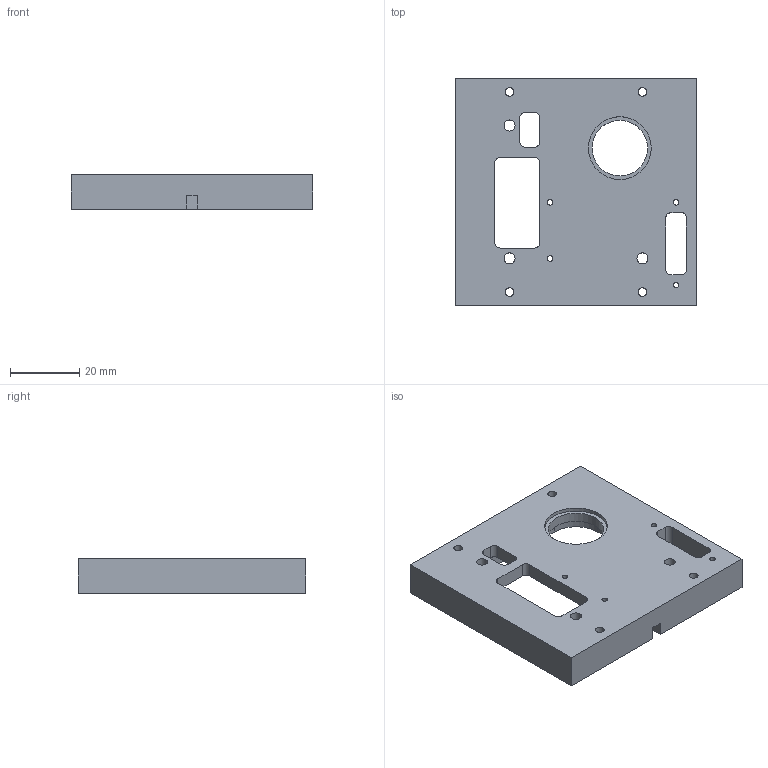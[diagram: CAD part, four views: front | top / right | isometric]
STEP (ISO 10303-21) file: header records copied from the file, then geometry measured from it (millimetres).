
FILE_DESCRIPTION(/* description */ ('','CAx-IF Rec.Pracs.---Representation and Presentation of Product Manufacturing Information (PMI)---4.0---2014-10-13'),/* implementation_level */ '2;1');
FILE_NAME(/* name */ 'a1_mini_z_top_L1_v8.step',/* time_stamp */ '2025-01-15T00:45:34+08:00',/* author */ (''),/* organization */ (''),/* preprocessor_version */ 'ST-DEVELOPER v20',/* originating_system */ 'Autodesk Translation Framework v13.20.0.188',/* authorisation */ '');
FILE_SCHEMA (('AP242_MANAGED_MODEL_BASED_3D_ENGINEERING_MIM_LF { 1 0 10303 442 1 1 4 }'));
Length unit declared in the file: millimetre
Products named in the file (1): a1_mini_z_top_L1
Bounding box: 70 x 66 x 10 mm (x, y, z)
Volume: 27616.6 mm3; surface area: 13183.1 mm2
Topology: 1 solids, 1 shells, 63 faces, 183 edges, 122 vertices
Faces by surface type: plane 32, cylinder 31
Full cylindrical faces by diameter (mm): 1.6 x4, 2.5 x4, 3.2 x3, 16.1 x1, 18.2 x1
Entity records: 2192 total; most frequent: DIRECTION 373, CARTESIAN_POINT 369, ORIENTED_EDGE 366, EDGE_CURVE 183, AXIS2_PLACEMENT_3D 126, VERTEX_POINT 122, LINE 121, VECTOR 121
